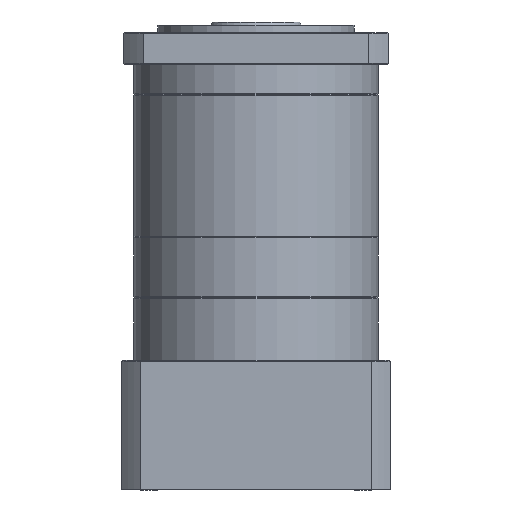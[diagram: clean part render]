
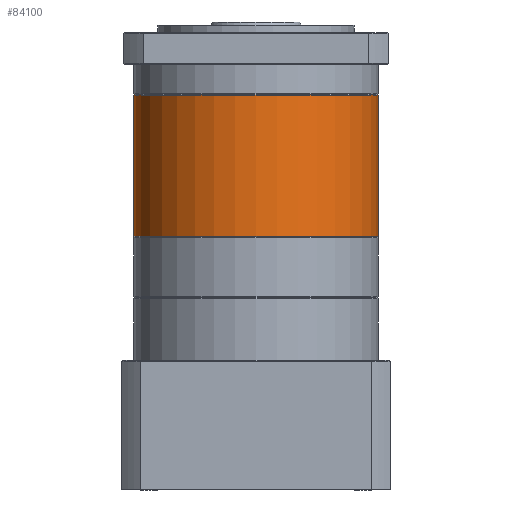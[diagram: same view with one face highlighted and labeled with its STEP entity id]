
A CAD part, front view. The second image highlights one B-rep face of the part: STEP entity #84100.
In plain terms, the highlighted cylindrical face has radius 81 mm (diameter 162 mm), a partial arc.
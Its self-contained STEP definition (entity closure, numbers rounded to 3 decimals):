
#1543 = EDGE_CURVE ( 'NONE', #7887, #73155, #10786, .T. ) ;
#2512 = DIRECTION ( 'NONE',  ( 1., 0., 0. ) ) ;
#4511 = VERTEX_POINT ( 'NONE', #68641 ) ;
#7887 = VERTEX_POINT ( 'NONE', #31511 ) ;
#10011 = CARTESIAN_POINT ( 'NONE',  ( 189.27, 70.375, 207.015 ) ) ;
#10494 = CARTESIAN_POINT ( 'NONE',  ( 189.27, 70.375, 113.515 ) ) ;
#10786 = LINE ( 'NONE', #39762, #51032 ) ;
#10919 = DIRECTION ( 'NONE',  ( 0., 0., -1. ) ) ;
#12196 = CYLINDRICAL_SURFACE ( 'NONE', #92992, 81. ) ;
#13268 = DIRECTION ( 'NONE',  ( 0., 0., 1. ) ) ;
#16740 = ORIENTED_EDGE ( 'NONE', *, *, #52543, .F. ) ;
#18546 = DIRECTION ( 'NONE',  ( 0., 0., 1. ) ) ;
#20288 = AXIS2_PLACEMENT_3D ( 'NONE', #10494, #61747, #53590 ) ;
#20682 = LINE ( 'NONE', #61290, #47488 ) ;
#25451 = EDGE_CURVE ( 'NONE', #4511, #7887, #38466, .T. ) ;
#25607 = DIRECTION ( 'NONE',  ( 0., 0., 1. ) ) ;
#26370 = EDGE_CURVE ( 'NONE', #73155, #80305, #86974, .T. ) ;
#31511 = CARTESIAN_POINT ( 'NONE',  ( 270.27, 70.375, 113.515 ) ) ;
#38466 = CIRCLE ( 'NONE', #20288, 81. ) ;
#39762 = CARTESIAN_POINT ( 'NONE',  ( 270.27, 70.375, 113.015 ) ) ;
#42934 = CARTESIAN_POINT ( 'NONE',  ( 189.27, 70.375, 113.015 ) ) ;
#43466 = ORIENTED_EDGE ( 'NONE', *, *, #25451, .T. ) ;
#47488 = VECTOR ( 'NONE', #25607, 1000. ) ;
#50139 = CARTESIAN_POINT ( 'NONE',  ( 270.27, 70.375, 207.015 ) ) ;
#51032 = VECTOR ( 'NONE', #18546, 1000. ) ;
#52543 = EDGE_CURVE ( 'NONE', #4511, #80305, #20682, .T. ) ;
#52723 = CARTESIAN_POINT ( 'NONE',  ( 108.27, 70.375, 207.015 ) ) ;
#53590 = DIRECTION ( 'NONE',  ( 1., 0., 0. ) ) ;
#56736 = ORIENTED_EDGE ( 'NONE', *, *, #26370, .T. ) ;
#57074 = ORIENTED_EDGE ( 'NONE', *, *, #1543, .T. ) ;
#60248 = FACE_OUTER_BOUND ( 'NONE', #82873, .T. ) ;
#61290 = CARTESIAN_POINT ( 'NONE',  ( 108.27, 70.375, 113.015 ) ) ;
#61747 = DIRECTION ( 'NONE',  ( 0., 0., 1. ) ) ;
#68641 = CARTESIAN_POINT ( 'NONE',  ( 108.27, 70.375, 113.515 ) ) ;
#73155 = VERTEX_POINT ( 'NONE', #50139 ) ;
#74329 = AXIS2_PLACEMENT_3D ( 'NONE', #10011, #10919, #2512 ) ;
#80305 = VERTEX_POINT ( 'NONE', #52723 ) ;
#82873 = EDGE_LOOP ( 'NONE', ( #16740, #43466, #57074, #56736 ) ) ;
#84100 = ADVANCED_FACE ( 'NONE', ( #60248 ), #12196, .T. ) ;
#85618 = DIRECTION ( 'NONE',  ( 1., 0., 0. ) ) ;
#86974 = CIRCLE ( 'NONE', #74329, 81. ) ;
#92992 = AXIS2_PLACEMENT_3D ( 'NONE', #42934, #13268, #85618 ) ;
